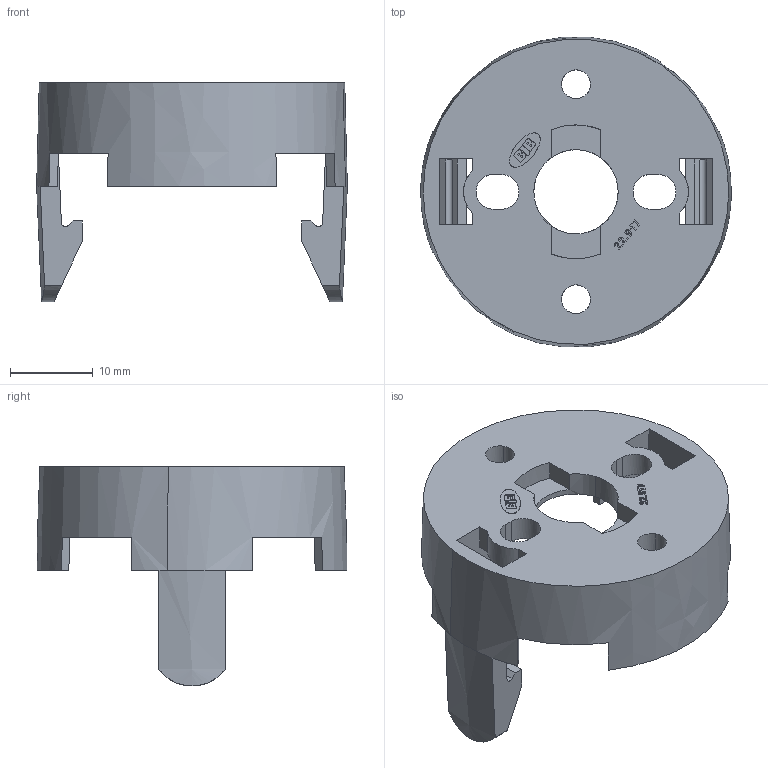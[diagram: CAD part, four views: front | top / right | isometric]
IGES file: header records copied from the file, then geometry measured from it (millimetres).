
Global section: file name: C:\CoreTechnologie\3D-in\ .igs; native system: CT CoreTechnologie 3D Evolution; preprocessor: 2006; author: assmuth; date: 1160103.140903; units: millimetre
Bounding box: 37.58 x 37.48 x 26.6 mm (x, y, z)
Surface area: 5330.6 mm2 (no closed solid volume)
Topology: 0 solids, 0 shells, 269 faces, 1508 edges, 1508 vertices
Faces by surface type: bspline 269
